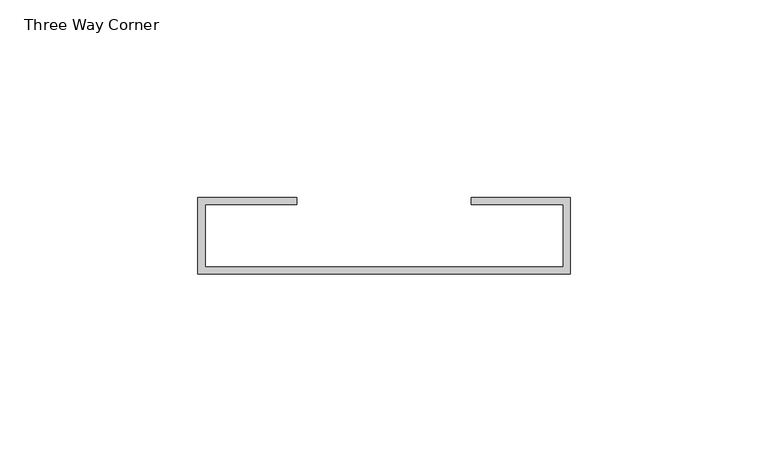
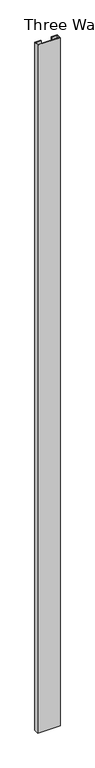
"""IFC4 building model written with IfcOpenShell, lengths in millimetres: proxy geometry, Connection-Corner-Teknion-OptosLP-Three_Way_FZCA3A_D : Three Way Corner."""

from ifc_helpers import new_model, si_unit, origin, origin_with_axes, place, context, project, spatial, polyline, outline, extrude, source, transform, mapped, element, save


def three_way_corner_fe4747e2(model_context):
    return source(origin(), model_context, "Body", "SweptSolid", [
        extrude(outline(polyline([(-47.005969, -50.00625), (-47.005969, -30.70225), (-22.0218, -30.70225), (-22.0218, -32.48025), (-45.212, -32.48025), (-45.212, -48.22825), (45.212, -48.22825), (45.212, -32.48025), (22.0218, -32.48025), (22.0218, -30.70225), (46.99, -30.70225), (46.99, -50.00625), (-47.005969, -50.00625)])), origin_with_axes(), (0.0, 0.0, 1.0), 3048.0),
    ])


if __name__ == "__main__":
    model = new_model("IFC4")
    model_context = context("Model", 3, world=origin())
    ifc_project = project(units=[si_unit("LENGTHUNIT", "METRE", prefix="MILLI")], contexts=[model_context])
    site = spatial("IfcSite", under=ifc_project)
    building = spatial("IfcBuilding", under=site)
    placement = place(None, origin())
    three_way_corner_shape = three_way_corner_fe4747e2(model_context)
    element("IfcBuildingElementProxy", 1, Name="Connection-Corner-Teknion-OptosLP-Three_Way_FZCA3A_D : Three Way Corner", ObjectType="Connection-Corner-Teknion-OptosLP-Three_Way_FZCA3A_D : Three Way Corner", at=placement, inside=building, context=model_context, shape_type="MappedRepresentation", body=[
        mapped(three_way_corner_shape, transform((0.0, 0.0, 0.0), x_axis=(1.0, 0.0, 0.0), y_axis=(0.0, 1.0, 0.0), z_axis=(0.0, 0.0, 1.0))),
    ])
    save(model, "model.ifc")
